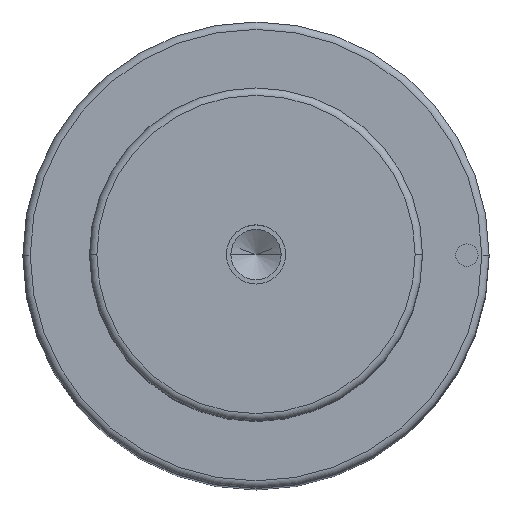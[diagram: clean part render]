
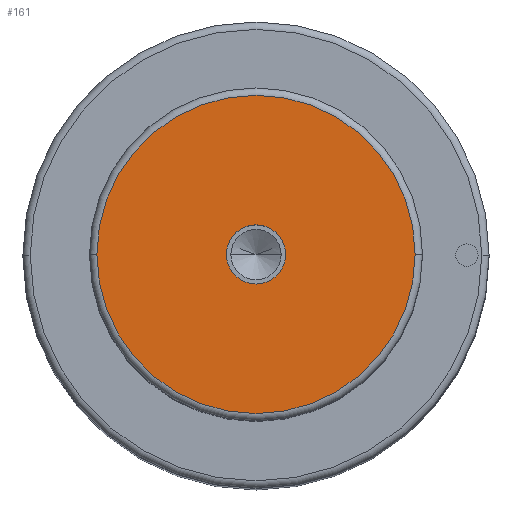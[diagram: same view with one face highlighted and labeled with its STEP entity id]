
A CAD part, top view. The second image highlights one B-rep face of the part: STEP entity #161.
In plain terms, the highlighted planar face has unit normal (0, 0, 1).
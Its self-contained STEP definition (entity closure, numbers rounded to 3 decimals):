
#104=PLANE('',#823);
#113=FACE_BOUND('',#265,.T.);
#114=FACE_BOUND('',#266,.T.);
#161=ADVANCED_FACE('',(#113,#114),#104,.T.);
#265=EDGE_LOOP('',(#405,#406));
#266=EDGE_LOOP('',(#407,#408));
#323=CIRCLE('',#817,4.);
#324=CIRCLE('',#819,4.);
#325=CIRCLE('',#821,21.5);
#326=CIRCLE('',#822,21.5);
#405=ORIENTED_EDGE('',*,*,#649,.F.);
#406=ORIENTED_EDGE('',*,*,#650,.F.);
#407=ORIENTED_EDGE('',*,*,#648,.T.);
#408=ORIENTED_EDGE('',*,*,#646,.T.);
#582=VERTEX_POINT('',#1204);
#583=VERTEX_POINT('',#1206);
#584=VERTEX_POINT('',#1212);
#585=VERTEX_POINT('',#1213);
#646=EDGE_CURVE('',#583,#582,#323,.T.);
#648=EDGE_CURVE('',#582,#583,#324,.T.);
#649=EDGE_CURVE('',#584,#585,#325,.T.);
#650=EDGE_CURVE('',#585,#584,#326,.T.);
#817=AXIS2_PLACEMENT_3D('',#1205,#947,#948);
#819=AXIS2_PLACEMENT_3D('',#1209,#952,#953);
#821=AXIS2_PLACEMENT_3D('',#1211,#956,#957);
#822=AXIS2_PLACEMENT_3D('',#1214,#958,#959);
#823=AXIS2_PLACEMENT_3D('',#1215,#960,#961);
#947=DIRECTION('',(0.,0.,-1.));
#948=DIRECTION('',(0.,1.,0.));
#952=DIRECTION('',(0.,0.,-1.));
#953=DIRECTION('',(0.,-1.,0.));
#956=DIRECTION('',(0.,0.,-1.));
#957=DIRECTION('',(0.,1.,0.));
#958=DIRECTION('',(0.,0.,-1.));
#959=DIRECTION('',(0.,-1.,0.));
#960=DIRECTION('',(0.,0.,1.));
#961=DIRECTION('',(0.,-1.,0.));
#1204=CARTESIAN_POINT('',(-4.,0.,190.));
#1205=CARTESIAN_POINT('',(0.,0.,190.));
#1206=CARTESIAN_POINT('',(4.,0.,190.));
#1209=CARTESIAN_POINT('',(0.,0.,190.));
#1211=CARTESIAN_POINT('',(0.,0.,190.));
#1212=CARTESIAN_POINT('',(21.5,0.,190.));
#1213=CARTESIAN_POINT('',(-21.5,0.,190.));
#1214=CARTESIAN_POINT('',(0.,0.,190.));
#1215=CARTESIAN_POINT('',(0.,0.,190.));
